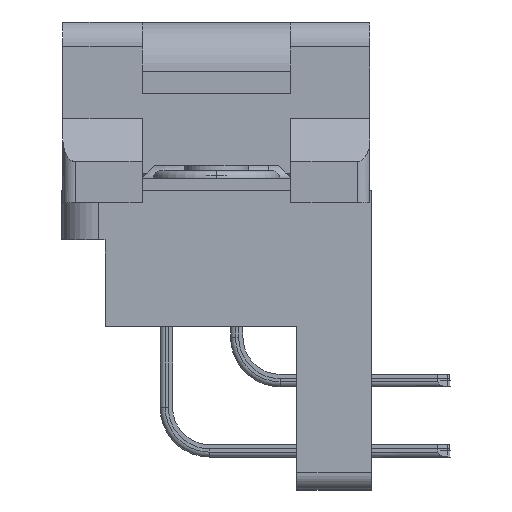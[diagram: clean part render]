
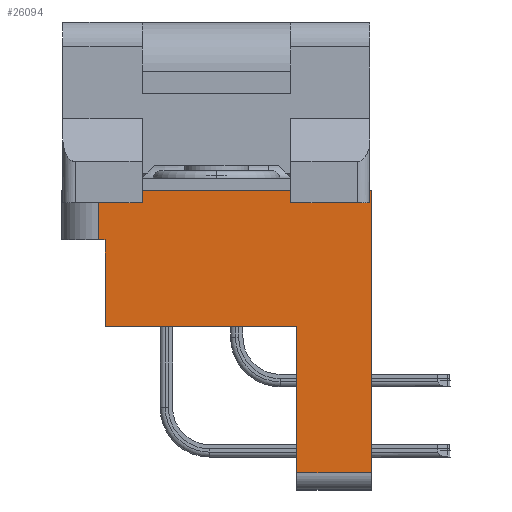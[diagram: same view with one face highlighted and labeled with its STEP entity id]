
A CAD part, left-side view. The second image highlights one B-rep face of the part: STEP entity #26094.
In plain terms, the highlighted planar face has unit normal (-1, 0, 0).
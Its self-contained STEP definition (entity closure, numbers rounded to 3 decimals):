
#3689 = CARTESIAN_POINT ( 'NONE',  ( -34.65, 4.75, -5.5 ) ) ;
#5250 = LINE ( 'NONE', #35303, #6897 ) ;
#6849 = EDGE_LOOP ( 'NONE', ( #36449, #49086, #30515, #32938, #18763, #6995, #21492, #30120 ) ) ;
#6897 = VECTOR ( 'NONE', #40723, 1000. ) ;
#6995 = ORIENTED_EDGE ( 'NONE', *, *, #18064, .T. ) ;
#8596 = DIRECTION ( 'NONE',  ( -1., 0., 0. ) ) ;
#8863 = DIRECTION ( 'NONE',  ( 0., 0., -1. ) ) ;
#8984 = CARTESIAN_POINT ( 'NONE',  ( -34.65, 6.25, 0. ) ) ;
#11032 = EDGE_CURVE ( 'NONE', #31350, #65493, #15579, .T. ) ;
#11413 = DIRECTION ( 'NONE',  ( 0., -1., 0. ) ) ;
#12458 = VERTEX_POINT ( 'NONE', #34849 ) ;
#13993 = CARTESIAN_POINT ( 'NONE',  ( -34.65, 6.25, -5.5 ) ) ;
#14575 = LINE ( 'NONE', #40781, #29998 ) ;
#15579 = LINE ( 'NONE', #58253, #38258 ) ;
#16758 = LINE ( 'NONE', #29833, #23231 ) ;
#18064 = EDGE_CURVE ( 'NONE', #27012, #31350, #29602, .T. ) ;
#18283 = CARTESIAN_POINT ( 'NONE',  ( -34.65, -6.25, 0. ) ) ;
#18763 = ORIENTED_EDGE ( 'NONE', *, *, #30275, .F. ) ;
#21492 = ORIENTED_EDGE ( 'NONE', *, *, #11032, .T. ) ;
#21637 = VERTEX_POINT ( 'NONE', #56581 ) ;
#22812 = VECTOR ( 'NONE', #53897, 1000. ) ;
#23231 = VECTOR ( 'NONE', #40440, 1000. ) ;
#24167 = DIRECTION ( 'NONE',  ( 0., -1., 0. ) ) ;
#26094 = ADVANCED_FACE ( 'NONE', ( #61452 ), #45228, .T. ) ;
#27012 = VERTEX_POINT ( 'NONE', #29073 ) ;
#28198 = EDGE_CURVE ( 'NONE', #12458, #65493, #5250, .T. ) ;
#28710 = DIRECTION ( 'NONE',  ( 0., -1., 0. ) ) ;
#29073 = CARTESIAN_POINT ( 'NONE',  ( -34.65, 4.75, 0. ) ) ;
#29544 = VERTEX_POINT ( 'NONE', #48015 ) ;
#29602 = LINE ( 'NONE', #3689, #61163 ) ;
#29833 = CARTESIAN_POINT ( 'NONE',  ( -34.65, 6.25, -5.5 ) ) ;
#29998 = VECTOR ( 'NONE', #50995, 1000. ) ;
#30120 = ORIENTED_EDGE ( 'NONE', *, *, #28198, .F. ) ;
#30275 = EDGE_CURVE ( 'NONE', #27012, #45832, #49139, .T. ) ;
#30515 = ORIENTED_EDGE ( 'NONE', *, *, #56594, .T. ) ;
#31350 = VERTEX_POINT ( 'NONE', #52964 ) ;
#32938 = ORIENTED_EDGE ( 'NONE', *, *, #43777, .T. ) ;
#33548 = VERTEX_POINT ( 'NONE', #56020 ) ;
#34097 = EDGE_CURVE ( 'NONE', #21637, #33548, #14575, .T. ) ;
#34849 = CARTESIAN_POINT ( 'NONE',  ( -34.65, 4.5, -5.5 ) ) ;
#35303 = CARTESIAN_POINT ( 'NONE',  ( -34.65, 4.5, -5.5 ) ) ;
#36449 = ORIENTED_EDGE ( 'NONE', *, *, #39876, .T. ) ;
#38258 = VECTOR ( 'NONE', #11413, 1000. ) ;
#38510 = CARTESIAN_POINT ( 'NONE',  ( -34.65, -6.25, -5.5 ) ) ;
#39876 = EDGE_CURVE ( 'NONE', #12458, #33548, #16758, .T. ) ;
#40019 = LINE ( 'NONE', #59431, #64326 ) ;
#40440 = DIRECTION ( 'NONE',  ( 0., -1., 0. ) ) ;
#40572 = LINE ( 'NONE', #38510, #22812 ) ;
#40723 = DIRECTION ( 'NONE',  ( 0., 0., 1. ) ) ;
#40781 = CARTESIAN_POINT ( 'NONE',  ( -34.65, -3.25, -5.5 ) ) ;
#43777 = EDGE_CURVE ( 'NONE', #29544, #45832, #40572, .T. ) ;
#45228 = PLANE ( 'NONE',  #54900 ) ;
#45832 = VERTEX_POINT ( 'NONE', #18283 ) ;
#48015 = CARTESIAN_POINT ( 'NONE',  ( -34.65, -6.25, -11.4 ) ) ;
#49086 = ORIENTED_EDGE ( 'NONE', *, *, #34097, .F. ) ;
#49139 = LINE ( 'NONE', #8984, #65378 ) ;
#50995 = DIRECTION ( 'NONE',  ( 0., 0., 1. ) ) ;
#52964 = CARTESIAN_POINT ( 'NONE',  ( -34.65, 4.75, -2. ) ) ;
#53897 = DIRECTION ( 'NONE',  ( 0., 0., 1. ) ) ;
#54900 = AXIS2_PLACEMENT_3D ( 'NONE', #13993, #8596, #61334 ) ;
#56020 = CARTESIAN_POINT ( 'NONE',  ( -34.65, -3.25, -5.5 ) ) ;
#56581 = CARTESIAN_POINT ( 'NONE',  ( -34.65, -3.25, -11.4 ) ) ;
#56594 = EDGE_CURVE ( 'NONE', #21637, #29544, #40019, .T. ) ;
#58253 = CARTESIAN_POINT ( 'NONE',  ( -34.65, 7.5, -2. ) ) ;
#59431 = CARTESIAN_POINT ( 'NONE',  ( -34.65, -6.25, -11.4 ) ) ;
#61163 = VECTOR ( 'NONE', #8863, 1000. ) ;
#61334 = DIRECTION ( 'NONE',  ( 0., 0., 1. ) ) ;
#61452 = FACE_OUTER_BOUND ( 'NONE', #6849, .T. ) ;
#63296 = CARTESIAN_POINT ( 'NONE',  ( -34.65, 4.5, -2. ) ) ;
#64326 = VECTOR ( 'NONE', #24167, 1000. ) ;
#65378 = VECTOR ( 'NONE', #28710, 1000. ) ;
#65493 = VERTEX_POINT ( 'NONE', #63296 ) ;
